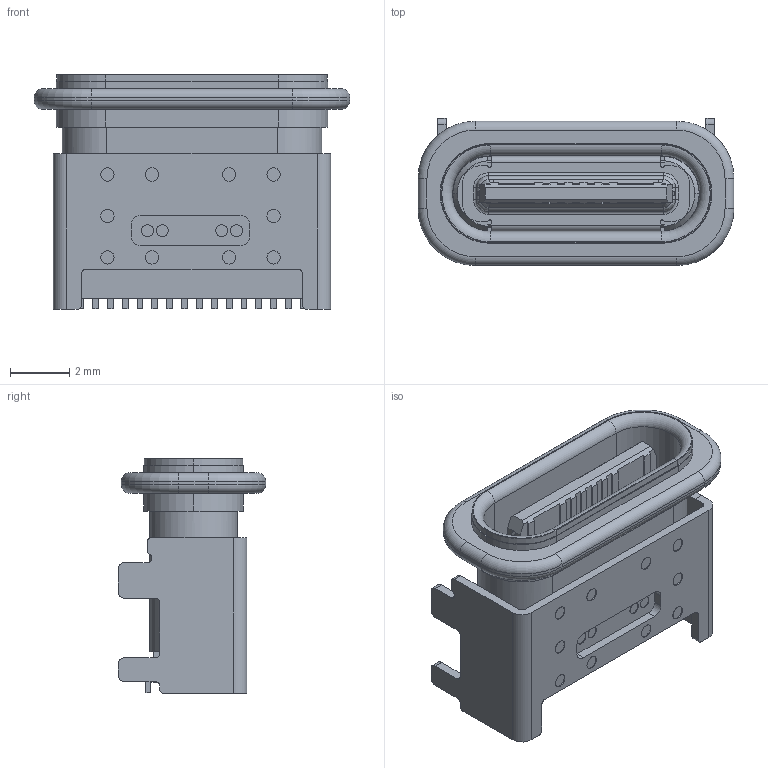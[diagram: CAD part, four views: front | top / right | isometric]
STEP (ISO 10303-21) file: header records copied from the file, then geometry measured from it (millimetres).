
FILE_DESCRIPTION((''),'2;1');
FILE_NAME('I-U41679061-2_ASM','2026-03-17T',('PMT2 SFT'),(''),'PRO/ENGINEER BY PARAMETRIC TECHNOLOGY CORPORATION, 2011490','PRO/ENGINEER BY PARAMETRIC TECHNOLOGY CORPORATION, 2011490','');
FILE_SCHEMA(('CONFIG_CONTROL_DESIGN'));
Length unit declared in the file: millimetre
Products named in the file (9): GS-X7_1; 1_1__10001_1; 1_2__10001_1; 16-_X2_65B0_X0__TYPE_C_16P_HS_A_ASM; EMI-X7_1; M11_1; TYPE_C_16P_HS_1_ASM_1_ASM; TYPE_C_16P_HS_ASM_1_ASM; I-U41679061-2_ASM
Assembly tree (8 placements, depth 5):
  I-U41679061-2_ASM
    TYPE_C_16P_HS_ASM_1_ASM
      TYPE_C_16P_HS_1_ASM_1_ASM
        GS-X7_1
        16-_X2_65B0_X0__TYPE_C_16P_HS_A_ASM
          1_1__10001_1
          1_2__10001_1
        EMI-X7_1
        M11_1
Bounding box: 10.64 x 4.96 x 7.9 mm (x, y, z)
Volume: 151.8 mm3; surface area: 898.1 mm2
Topology: 5 solids, 5 shells, 1015 faces, 2890 edges, 1875 vertices
Faces by surface type: plane 718, cylinder 256, torus 26, cone 11, bspline 4
Entity records: 33278 total; most frequent: CARTESIAN_POINT 6041, ORIENTED_EDGE 5780, DIRECTION 5488, EDGE_CURVE 2890, VECTOR 2306, LINE 2306, VERTEX_POINT 1875, AXIS2_PLACEMENT_3D 1591
